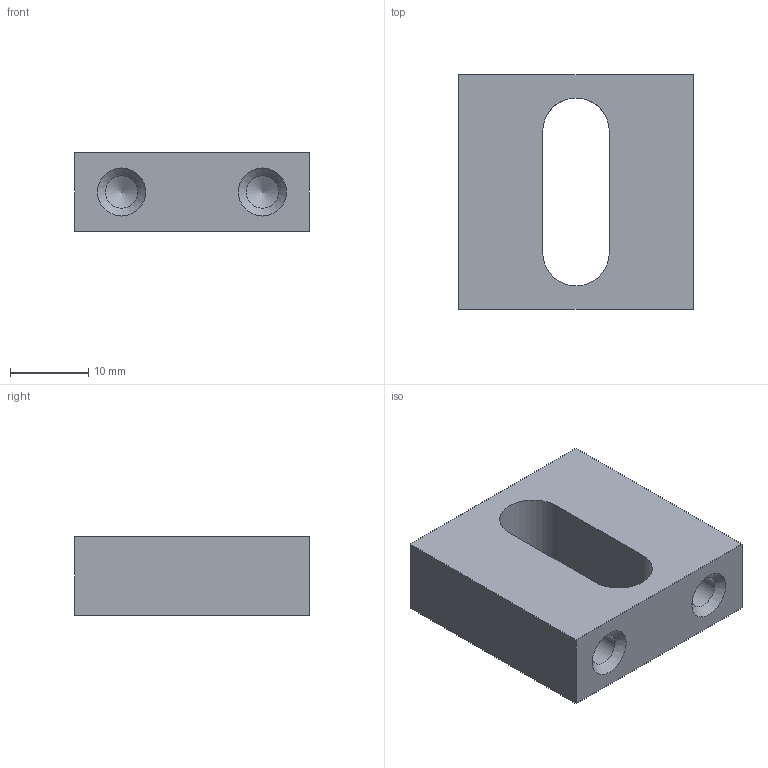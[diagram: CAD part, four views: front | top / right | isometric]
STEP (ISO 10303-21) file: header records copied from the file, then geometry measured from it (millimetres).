
FILE_DESCRIPTION(('STEP AP203'), '1');
FILE_NAME('ÒÏÏÔ1801.01.08.00.012 - Êðåïëåíèå ëèñòà íèæíåå', '', ('UNSPECIFIED'), ('UNSPECIFIED'), 'C3D Converter', 'C3D Toolkit', '');
FILE_SCHEMA(('CONFIG_CONTROL_DESIGN'));
Length unit declared in the file: millimetre
Products named in the file (1): ТППФ1801.01.08.00.012
Bounding box: 30 x 30 x 10 mm (x, y, z)
Volume: 6820.4 mm3; surface area: 3451.7 mm2
Topology: 1 solids, 1 shells, 16 faces, 38 edges, 24 vertices
Faces by surface type: plane 8, cone 4, cylinder 4
Full cylindrical faces by diameter (mm): 4.134 x2
Entity records: 584 total; most frequent: DIRECTION 74, CARTESIAN_POINT 69, ORIENTED_EDGE 60, EDGE_CURVE 30, AXIS2_PLACEMENT_3D 27, EDGE_LOOP 24, VERTEX_POINT 22, LINE 20
